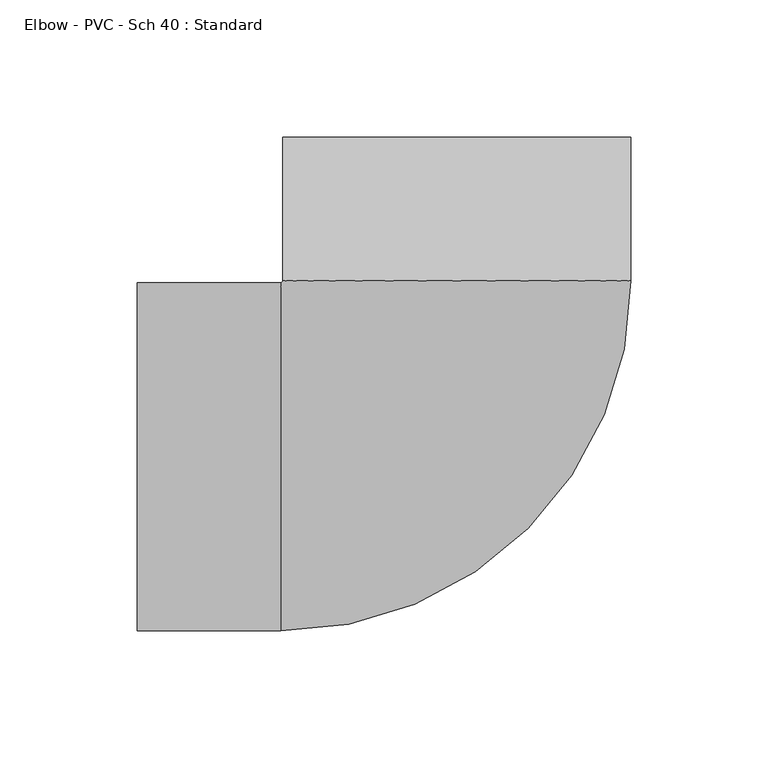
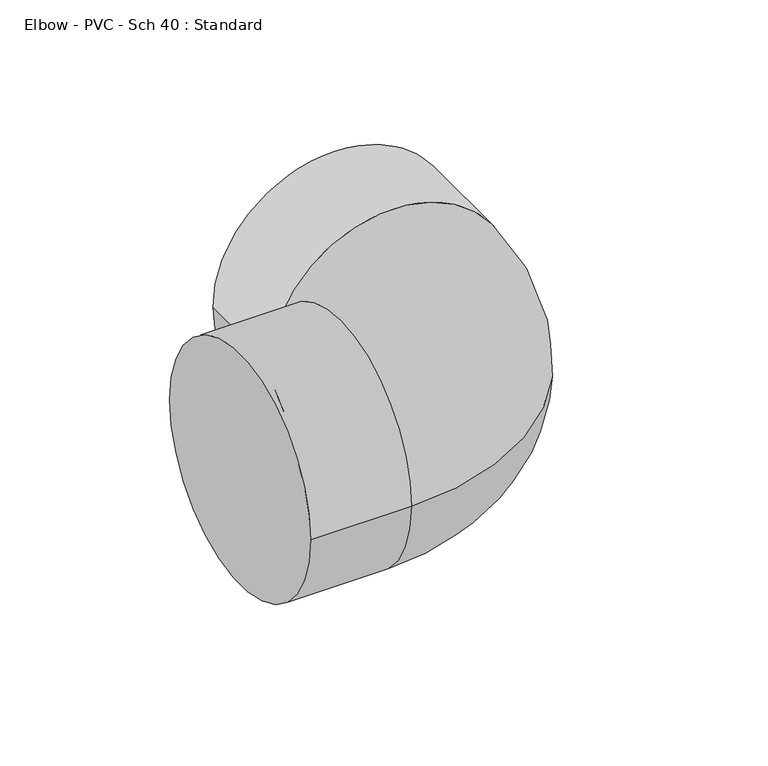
"""IFC4 building model written with IfcOpenShell, lengths in millimetres: pipe fitting geometry, Elbow - PVC - Sch 40 : Standard."""

import ifcopenshell
import ifcopenshell.guid

model = None  # the IFC model being written
_history = None  # IfcOwnerHistory: only IFC2X3 demands one
_inside = {}  # id of a spatial element -> (the spatial element, [elements in it])
_under = {}  # id of a project, library or spatial element -> (it, [spatial elements below it])
_declared = {}  # id of a project -> (the project, [libraries it declares])
_typed = {}  # id of a type object -> (the type object, [elements of that type])
_made_of = {}  # id of a material, layer set ... -> (it, [elements and type objects made of it])


def new_model(schema):
    """Start an empty IFC model of exactly this schema.

    Asked for "IFC4X3", IfcOpenShell would pick the latest addendum, in which some entities
    have other attributes; the version numbers below select the first issue.
    IFC2X3 requires an IfcOwnerHistory on every rooted entity: one is made here for all.
    """
    global model, _history
    if schema == "IFC4X3":
        model = ifcopenshell.file(schema_version=(4, 3, 0, 0))
    else:
        model = ifcopenshell.file(schema=schema)
    _inside.clear()
    _under.clear()
    _declared.clear()
    _typed.clear()
    _made_of.clear()
    _history = None
    if model.schema == "IFC2X3":
        org = make("IfcOrganization", Name="unknown")
        user = make(
            "IfcPersonAndOrganization",
            ThePerson=make("IfcPerson", FamilyName="unknown"),
            TheOrganization=org,
        )
        app = make(
            "IfcApplication",
            ApplicationDeveloper=org,
            Version="unknown",
            ApplicationFullName="unknown",
            ApplicationIdentifier="unknown",
        )
        _history = make(
            "IfcOwnerHistory",
            OwningUser=user,
            OwningApplication=app,
            ChangeAction="ADDED",
            CreationDate=0,
        )
    return model


def make(cls, **values):
    """One entity of the class cls with the attributes given. An attribute that is None is left unset."""
    return model.create_entity(
        cls, **{name: value for name, value in values.items() if value is not None}
    )


def rooted(cls, **values):
    """An entity with a GlobalId (a new one), such as an element, a storey or a relation."""
    return make(cls, GlobalId=ifcopenshell.guid.new(), OwnerHistory=_history, **values)


def si_unit(unit_type, name, prefix=None):
    """IfcSIUnit, for example si_unit("LENGTHUNIT", "METRE", prefix="MILLI")."""
    return make("IfcSIUnit", UnitType=unit_type, Prefix=prefix, Name=name)


def assignment(units):
    """IfcUnitAssignment: the units of a project."""
    return None if units is None else make("IfcUnitAssignment", Units=units)


def point(xyz):
    """IfcCartesianPoint."""
    return None if xyz is None else make("IfcCartesianPoint", Coordinates=xyz)


def direction(xyz):
    """IfcDirection."""
    return None if xyz is None else make("IfcDirection", DirectionRatios=xyz)


def frame(location, z_axis=None, x_axis=None):
    """IfcAxis2Placement3D, a coordinate frame: its origin and axes. An axis left out is left unset."""
    return make(
        "IfcAxis2Placement3D",
        Location=point(location),
        Axis=direction(z_axis),
        RefDirection=direction(x_axis),
    )


def origin():
    """The frame at (0, 0, 0) with its axes left unset."""
    return frame((0.0, 0.0, 0.0))


def place(relative_to, where):
    """IfcLocalPlacement: puts the frame where relative to a parent placement (None: the world)."""
    return make(
        "IfcLocalPlacement", PlacementRelTo=relative_to, RelativePlacement=where
    )


def context(
    kind, dimensions, precision=None, world=None, true_north=None, identifier=None
):
    """IfcGeometricRepresentationContext, for example the 3D "Model" context."""
    return make(
        "IfcGeometricRepresentationContext",
        ContextIdentifier=identifier,
        ContextType=kind,
        CoordinateSpaceDimension=dimensions,
        Precision=precision,
        WorldCoordinateSystem=world,
        TrueNorth=true_north,
    )


def project(units=None, contexts=None):
    """IfcProject with its units and contexts."""
    return rooted(
        "IfcProject",
        Name="project",
        RepresentationContexts=contexts,
        UnitsInContext=assignment(units),
    )


def spatial(cls, under=None, at=None, **own):
    """A site, building, storey or space (cls), placed at a placement, below another one or the project."""
    s = rooted(cls, ObjectPlacement=at, **own)
    if under is not None:
        _under.setdefault(under.id(), (under, []))[1].append(s)
    return s


def circle_curve(where, radius):
    """IfcCircle in the frame where."""
    return make("IfcCircle", Position=where, Radius=radius)


def ellipse_curve(where, semi_axis1, semi_axis2):
    """IfcEllipse in the frame where."""
    return make(
        "IfcEllipse", Position=where, SemiAxis1=semi_axis1, SemiAxis2=semi_axis2
    )


def trimmed(basis, trim1, trim2, sense, master):
    """IfcTrimmedCurve: the piece of a basis curve between two trims."""
    return make(
        "IfcTrimmedCurve",
        BasisCurve=basis,
        Trim1=trim1,
        Trim2=trim2,
        SenseAgreement=sense,
        MasterRepresentation=master,
    )


def shape(context_of_items, identifier, shape_type, items):
    """IfcShapeRepresentation: the items that make up one representation, for example the "Body"."""
    return make(
        "IfcShapeRepresentation",
        ContextOfItems=context_of_items,
        RepresentationIdentifier=identifier,
        RepresentationType=shape_type,
        Items=items,
    )


def source(mapping_origin, context_of_items, identifier, shape_type, items):
    """IfcRepresentationMap: a shape defined once, which mapped items show again and again."""
    return make(
        "IfcRepresentationMap",
        MappingOrigin=mapping_origin,
        MappedRepresentation=shape(context_of_items, identifier, shape_type, items),
    )


def transform(
    local_origin,
    x_axis=None,
    y_axis=None,
    z_axis=None,
    scale=None,
    scale2=None,
    scale3=None,
    uniform=True,
):
    """IfcCartesianTransformationOperator3D, or its non-uniform kind. x_axis, y_axis, z_axis: its Axis1, 2, 3."""
    if uniform:
        return make(
            "IfcCartesianTransformationOperator3D",
            Axis1=direction(x_axis),
            Axis2=direction(y_axis),
            LocalOrigin=point(local_origin),
            Scale=scale,
            Axis3=direction(z_axis),
        )
    return make(
        "IfcCartesianTransformationOperator3DnonUniform",
        Axis1=direction(x_axis),
        Axis2=direction(y_axis),
        LocalOrigin=point(local_origin),
        Scale=scale,
        Axis3=direction(z_axis),
        Scale2=scale2,
        Scale3=scale3,
    )


def mapped(mapping_source, mapping_target):
    """IfcMappedItem: shows the shape of a source again, moved by a transform."""
    return make(
        "IfcMappedItem", MappingSource=mapping_source, MappingTarget=mapping_target
    )


def made_of(thing, what):
    """Note that an element or type object is made of a material, layer set ...; save() writes the relation."""
    if what is not None:
        _made_of.setdefault(what.id(), (what, []))[1].append(thing)
    return thing


def element(
    cls,
    number,
    at=None,
    inside=None,
    cuts=None,
    type_object=None,
    material=None,
    context=None,
    identifier="Body",
    shape_type=None,
    held_by="IfcProductDefinitionShape",
    body=None,
    shapes=None,
    **own,
):
    """One element of the class cls, such as IfcWall. Its Tag is "e" and its number.

    at: its placement. inside: the storey or other place that contains it. cuts: it is an
    opening in that element (IfcRelVoidsElement). A single representation is given by context,
    identifier, shape_type and body (its items); several are given by shapes. held_by: the class
    of the entity that holds the representations. save() writes the other relations.
    """
    e = rooted(cls, Tag="e%d" % number, ObjectPlacement=at, **own)
    if body is not None:
        shapes = [shape(context, identifier, shape_type, body)]
    if shapes is not None:
        e.Representation = make(held_by, Representations=shapes)
    if inside is not None:
        _inside.setdefault(inside.id(), (inside, []))[1].append(e)
    if cuts is not None:
        rooted(
            "IfcRelVoidsElement", RelatingBuildingElement=cuts, RelatedOpeningElement=e
        )
    if type_object is not None:
        _typed.setdefault(type_object.id(), (type_object, []))[1].append(e)
    return made_of(e, material)


def aggregate(whole, parts):
    """IfcRelAggregates: a whole, such as a stair, and the parts it consists of."""
    return rooted("IfcRelAggregates", RelatingObject=whole, RelatedObjects=parts)


def save(model, path):
    """Write the relations noted so far, then the file.

    IfcRelAggregates (storeys below a building ...), IfcRelContainedInSpatialStructure (elements
    in a storey), IfcRelDefinesByType, IfcRelAssociatesMaterial and IfcRelDeclares: one each for
    every whole, place, type object, material and project.
    """
    for whole, parts in _under.values():
        aggregate(whole, parts)
    for where, things in _inside.values():
        rooted(
            "IfcRelContainedInSpatialStructure",
            RelatedElements=things,
            RelatingStructure=where,
        )
    for kind, things in _typed.values():
        rooted("IfcRelDefinesByType", RelatedObjects=things, RelatingType=kind)
    for what, things in _made_of.values():
        rooted("IfcRelAssociatesMaterial", RelatedObjects=things, RelatingMaterial=what)
    for by, libraries in _declared.values():
        rooted("IfcRelDeclares", RelatingContext=by, RelatedDefinitions=libraries)
    model.write(path)


def plane_surface(at):
    """IfcPlane: the flat surface through the origin of the frame at, square to its z axis."""
    return make("IfcPlane", Position=at)


def cylinder_surface(at, radius):
    """IfcCylindricalSurface: all points at the distance radius from the z axis of the frame at."""
    return make("IfcCylindricalSurface", Position=at, Radius=radius)


def revolved_surface(curve, axis_point, axis_direction):
    """IfcSurfaceOfRevolution: the curve turned about the line through axis_point along axis_direction."""
    return make(
        "IfcSurfaceOfRevolution",
        SweptCurve=make("IfcArbitraryOpenProfileDef", ProfileType="CURVE", Curve=curve),
        AxisPosition=make("IfcAxis1Placement", Location=point(axis_point), Axis=direction(axis_direction)),
    )


def advanced_brep(points, edges, surfaces, faces):
    """IfcAdvancedBrep: a solid bounded by faces that lie on surfaces and meet in shared edges.

    An edge is (start, end): straight between two places in points (the first is 0);
    or (start, end, curve); or (start, end, curve, False) where it runs against its curve.
    A face is (place in surfaces, loops), or (place, loops, False) where it looks against
    its surface's normal. A loop lists edges by number (the first is 1), with a minus sign
    where the edge is run from its end to its start. The first loop is the outer one.
    """
    corners = [point(p) for p in points]
    vertices = [make("IfcVertexPoint", VertexGeometry=c) for c in corners]
    made = []
    for start, end, *more in edges:
        made.append(
            make(
                "IfcEdgeCurve",
                EdgeStart=vertices[start],
                EdgeEnd=vertices[end],
                EdgeGeometry=more[0] if more else make("IfcPolyline", Points=[corners[start], corners[end]]),
                SameSense=more[1] if len(more) > 1 else True,
            )
        )
    hull = []
    for where, loops, *sense in faces:
        bounds = []
        for j, loop in enumerate(loops):
            ring = [make("IfcOrientedEdge", EdgeElement=made[abs(k) - 1], Orientation=k > 0) for k in loop]
            bounds.append(
                make(
                    "IfcFaceOuterBound" if j == 0 else "IfcFaceBound",
                    Bound=make("IfcEdgeLoop", EdgeList=ring),
                    Orientation=True,
                )
            )
        hull.append(make("IfcAdvancedFace", Bounds=bounds, FaceSurface=surfaces[where], SameSense=sense[0] if sense else True))
    return make("IfcAdvancedBrep", Outer=make("IfcClosedShell", CfsFaces=hull))


def elbow_pvc_sch_40_standard_512eced2(model_context):
    return source(origin(), model_context, "Body", "AdvancedBrep", [
        advanced_brep(
        [(-116.6929424, -63.5, 0.0), (-116.6929424, 63.5, 0.0), (-64.2927424, -63.5, 0.0), (-64.2927424, 63.5, 0.0), (-63.4989924, 64.2937376, 0.0), (63.5010076, 64.2917472, 0.0), (63.5018288, 116.6919472, 0.0), (-63.4981712, 116.6939376, 0.0)],
        [
            (0, 1, circle_curve(frame((-116.6929424, 0.0, 0.0), z_axis=(-1.0, 0.0, 0.0), x_axis=(0.0, 1.0, 0.0)), 63.5)),
            (1, 0, circle_curve(frame((-116.6929424, 0.0, 0.0), z_axis=(-1.0, 0.0, 0.0), x_axis=(0.0, 1.0, 0.0)), 63.5)),
            (0, 2),
            (2, 3, circle_curve(frame((-64.2927424, 0.0, 0.0), z_axis=(-1.0, 0.0, 0.0), x_axis=(0.0, 1.0, 0.0)), 63.5)),
            (3, 1),
            (3, 2, circle_curve(frame((-64.2927424, 0.0, 0.0), z_axis=(-1.0, 0.0, 0.0), x_axis=(0.0, 1.0, 0.0)), 63.5)),
            (4, 3, circle_curve(frame((-64.2927424, 64.29375, 0.0), z_axis=(0.0, 0.0, -1.0), x_axis=(0.0, -1.0, 0.0)), 0.79375)),
            (2, 5, circle_curve(frame((-64.2927424, 64.29375, 0.0), z_axis=(0.0, 0.0, 1.0), x_axis=(0.0, -1.0, 0.0)), 127.79375)),
            (5, 4, circle_curve(frame((0.0010076, 64.2927424, 0.0), z_axis=(-1.5671875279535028e-05, -0.9999999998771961, 0.0), x_axis=(-0.9999999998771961, 1.5671875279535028e-05, 0.0)), 63.5)),
            (4, 5, circle_curve(frame((0.0010076, 64.2927424, 0.0), z_axis=(-1.5671875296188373e-05, -0.9999999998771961, 0.0), x_axis=(-0.9999999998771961, 1.5671875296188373e-05, 0.0)), 63.5)),
            (6, 7, circle_curve(frame((0.0018288, 116.6929424, 0.0), z_axis=(1.5671875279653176e-05, 0.9999999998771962, 0.0), x_axis=(-0.9999999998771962, 1.5671875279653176e-05, 0.0)), 63.5)),
            (7, 6, circle_curve(frame((0.0018288, 116.6929424, 0.0), z_axis=(1.5671875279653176e-05, 0.9999999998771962, 0.0), x_axis=(-0.9999999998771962, 1.5671875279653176e-05, 0.0)), 63.5)),
            (5, 6),
            (7, 4),
        ],
        [
            plane_surface(frame((-116.6929424, 0.0, 0.0), z_axis=(-1.0, 0.0, 0.0), x_axis=(0.0, 0.0, 1.0))),
            cylinder_surface(frame((-116.6929424, 0.0, 0.0), z_axis=(-1.0, 0.0, 0.0), x_axis=(0.0, 1.0, 0.0)), 63.5),
            revolved_surface(trimmed(ellipse_curve(frame((-64.2927424, 0.0, 0.0), z_axis=(-1.0, 0.0, 0.0), x_axis=(0.0, 1.0, 0.0)), 63.5, 63.5), [point((-64.2927424, -63.5, 0.0))], [point((-64.2927424, 63.5, 0.0))], True, "CARTESIAN"), (-64.2927424, 64.29375, 0.0), (0.0, 0.0, 1.0)),
            revolved_surface(trimmed(ellipse_curve(frame((-64.2927424, 0.0, 0.0), z_axis=(-1.0, 0.0, 0.0), x_axis=(0.0, 1.0, 0.0)), 63.5, 63.5), [point((-64.2927424, 63.5, 0.0))], [point((-64.2927424, -63.5, 0.0))], True, "CARTESIAN"), (-64.2927424, 64.29375, 0.0), (0.0, 0.0, 1.0)),
            plane_surface(frame((0.0018288, 116.6929424, 0.0), z_axis=(1.5671875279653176e-05, 0.9999999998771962, 0.0), x_axis=(0.0, 0.0, 1.0))),
            cylinder_surface(frame((0.0010076, 64.2927424, 0.0), z_axis=(-1.5671875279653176e-05, -0.9999999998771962, 0.0), x_axis=(-0.9999999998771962, 1.5671875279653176e-05, 0.0)), 63.5),
        ],
        [
            (0, [[1, 2]]),
            (1, [[-1, 3, 4, 5]]),
            (1, [[-2, -5, 6, -3]]),
            (2, [[7, -4, 8, 9]]),
            (3, [[-8, -6, -7, 10]]),
            (4, [[11, 12]]),
            (5, [[-9, 13, -12, 14]]),
            (5, [[-10, -14, -11, -13]]),
        ],
    ),
    ])


if __name__ == "__main__":
    model = new_model("IFC4")
    model_context = context("Model", 3, world=origin())
    ifc_project = project(units=[si_unit("LENGTHUNIT", "METRE", prefix="MILLI")], contexts=[model_context])
    site = spatial("IfcSite", under=ifc_project)
    building = spatial("IfcBuilding", under=site)
    placement = place(None, origin())
    elbow_pvc_sch_40_standard_shape = elbow_pvc_sch_40_standard_512eced2(model_context)
    element("IfcPipeFitting", 1, ObjectType="Elbow - PVC - Sch 40 : Standard", at=placement, inside=building, context=model_context, shape_type="MappedRepresentation", body=[
        mapped(elbow_pvc_sch_40_standard_shape, transform((0.0, 0.0, 0.0), x_axis=(1.0, 0.0, 0.0), y_axis=(0.0, 1.0, 0.0), z_axis=(0.0, 0.0, 1.0))),
    ])
    save(model, "model.ifc")
